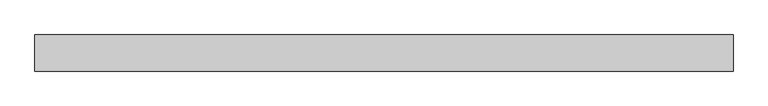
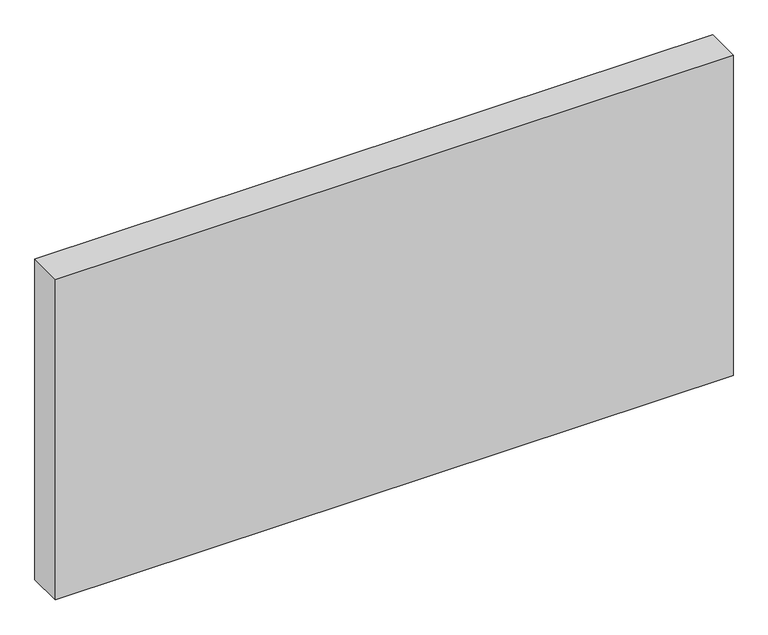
"""IFC4 building model written with IfcOpenShell, lengths in millimetres: plate geometry, Системная панель : Алюкобонд красный."""

import ifcopenshell
import ifcopenshell.guid

model = None  # the IFC model being written
_history = None  # IfcOwnerHistory: only IFC2X3 demands one
_inside = {}  # id of a spatial element -> (the spatial element, [elements in it])
_under = {}  # id of a project, library or spatial element -> (it, [spatial elements below it])
_declared = {}  # id of a project -> (the project, [libraries it declares])
_typed = {}  # id of a type object -> (the type object, [elements of that type])
_made_of = {}  # id of a material, layer set ... -> (it, [elements and type objects made of it])


def new_model(schema):
    """Start an empty IFC model of exactly this schema.

    Asked for "IFC4X3", IfcOpenShell would pick the latest addendum, in which some entities
    have other attributes; the version numbers below select the first issue.
    IFC2X3 requires an IfcOwnerHistory on every rooted entity: one is made here for all.
    """
    global model, _history
    if schema == "IFC4X3":
        model = ifcopenshell.file(schema_version=(4, 3, 0, 0))
    else:
        model = ifcopenshell.file(schema=schema)
    _inside.clear()
    _under.clear()
    _declared.clear()
    _typed.clear()
    _made_of.clear()
    _history = None
    if model.schema == "IFC2X3":
        org = make("IfcOrganization", Name="unknown")
        user = make(
            "IfcPersonAndOrganization",
            ThePerson=make("IfcPerson", FamilyName="unknown"),
            TheOrganization=org,
        )
        app = make(
            "IfcApplication",
            ApplicationDeveloper=org,
            Version="unknown",
            ApplicationFullName="unknown",
            ApplicationIdentifier="unknown",
        )
        _history = make(
            "IfcOwnerHistory",
            OwningUser=user,
            OwningApplication=app,
            ChangeAction="ADDED",
            CreationDate=0,
        )
    return model


def make(cls, **values):
    """One entity of the class cls with the attributes given. An attribute that is None is left unset."""
    return model.create_entity(
        cls, **{name: value for name, value in values.items() if value is not None}
    )


def rooted(cls, **values):
    """An entity with a GlobalId (a new one), such as an element, a storey or a relation."""
    return make(cls, GlobalId=ifcopenshell.guid.new(), OwnerHistory=_history, **values)


def si_unit(unit_type, name, prefix=None):
    """IfcSIUnit, for example si_unit("LENGTHUNIT", "METRE", prefix="MILLI")."""
    return make("IfcSIUnit", UnitType=unit_type, Prefix=prefix, Name=name)


def assignment(units):
    """IfcUnitAssignment: the units of a project."""
    return None if units is None else make("IfcUnitAssignment", Units=units)


def point(xyz):
    """IfcCartesianPoint."""
    return None if xyz is None else make("IfcCartesianPoint", Coordinates=xyz)


def direction(xyz):
    """IfcDirection."""
    return None if xyz is None else make("IfcDirection", DirectionRatios=xyz)


def frame(location, z_axis=None, x_axis=None):
    """IfcAxis2Placement3D, a coordinate frame: its origin and axes. An axis left out is left unset."""
    return make(
        "IfcAxis2Placement3D",
        Location=point(location),
        Axis=direction(z_axis),
        RefDirection=direction(x_axis),
    )


def origin():
    """The frame at (0, 0, 0) with its axes left unset."""
    return frame((0.0, 0.0, 0.0))


def origin_with_axes():
    """The frame at (0, 0, 0) with the z axis (0, 0, 1) and the x axis (1, 0, 0) written out."""
    return frame((0.0, 0.0, 0.0), z_axis=(0.0, 0.0, 1.0), x_axis=(1.0, 0.0, 0.0))


def place(relative_to, where):
    """IfcLocalPlacement: puts the frame where relative to a parent placement (None: the world)."""
    return make(
        "IfcLocalPlacement", PlacementRelTo=relative_to, RelativePlacement=where
    )


def context(
    kind, dimensions, precision=None, world=None, true_north=None, identifier=None
):
    """IfcGeometricRepresentationContext, for example the 3D "Model" context."""
    return make(
        "IfcGeometricRepresentationContext",
        ContextIdentifier=identifier,
        ContextType=kind,
        CoordinateSpaceDimension=dimensions,
        Precision=precision,
        WorldCoordinateSystem=world,
        TrueNorth=true_north,
    )


def project(units=None, contexts=None):
    """IfcProject with its units and contexts."""
    return rooted(
        "IfcProject",
        Name="project",
        RepresentationContexts=contexts,
        UnitsInContext=assignment(units),
    )


def spatial(cls, under=None, at=None, **own):
    """A site, building, storey or space (cls), placed at a placement, below another one or the project."""
    s = rooted(cls, ObjectPlacement=at, **own)
    if under is not None:
        _under.setdefault(under.id(), (under, []))[1].append(s)
    return s


def polyline(points):
    """IfcPolyline through the points."""
    return make("IfcPolyline", Points=[point(p) for p in points])


def outline(outer, holes=None, kind="AREA"):
    """IfcArbitraryClosedProfileDef: a profile drawn as a closed curve; with holes, ...WithVoids."""
    if holes is None:
        return make("IfcArbitraryClosedProfileDef", ProfileType=kind, OuterCurve=outer)
    return make(
        "IfcArbitraryProfileDefWithVoids",
        ProfileType=kind,
        OuterCurve=outer,
        InnerCurves=holes,
    )


def extrude(swept, where, along, depth):
    """IfcExtrudedAreaSolid: the profile swept, set in the frame where, extruded along a direction by depth."""
    return make(
        "IfcExtrudedAreaSolid",
        SweptArea=swept,
        Position=where,
        ExtrudedDirection=direction(along),
        Depth=depth,
    )


def shape(context_of_items, identifier, shape_type, items):
    """IfcShapeRepresentation: the items that make up one representation, for example the "Body"."""
    return make(
        "IfcShapeRepresentation",
        ContextOfItems=context_of_items,
        RepresentationIdentifier=identifier,
        RepresentationType=shape_type,
        Items=items,
    )


def source(mapping_origin, context_of_items, identifier, shape_type, items):
    """IfcRepresentationMap: a shape defined once, which mapped items show again and again."""
    return make(
        "IfcRepresentationMap",
        MappingOrigin=mapping_origin,
        MappedRepresentation=shape(context_of_items, identifier, shape_type, items),
    )


def transform(
    local_origin,
    x_axis=None,
    y_axis=None,
    z_axis=None,
    scale=None,
    scale2=None,
    scale3=None,
    uniform=True,
):
    """IfcCartesianTransformationOperator3D, or its non-uniform kind. x_axis, y_axis, z_axis: its Axis1, 2, 3."""
    if uniform:
        return make(
            "IfcCartesianTransformationOperator3D",
            Axis1=direction(x_axis),
            Axis2=direction(y_axis),
            LocalOrigin=point(local_origin),
            Scale=scale,
            Axis3=direction(z_axis),
        )
    return make(
        "IfcCartesianTransformationOperator3DnonUniform",
        Axis1=direction(x_axis),
        Axis2=direction(y_axis),
        LocalOrigin=point(local_origin),
        Scale=scale,
        Axis3=direction(z_axis),
        Scale2=scale2,
        Scale3=scale3,
    )


def mapped(mapping_source, mapping_target):
    """IfcMappedItem: shows the shape of a source again, moved by a transform."""
    return make(
        "IfcMappedItem", MappingSource=mapping_source, MappingTarget=mapping_target
    )


def made_of(thing, what):
    """Note that an element or type object is made of a material, layer set ...; save() writes the relation."""
    if what is not None:
        _made_of.setdefault(what.id(), (what, []))[1].append(thing)
    return thing


def element(
    cls,
    number,
    at=None,
    inside=None,
    cuts=None,
    type_object=None,
    material=None,
    context=None,
    identifier="Body",
    shape_type=None,
    held_by="IfcProductDefinitionShape",
    body=None,
    shapes=None,
    **own,
):
    """One element of the class cls, such as IfcWall. Its Tag is "e" and its number.

    at: its placement. inside: the storey or other place that contains it. cuts: it is an
    opening in that element (IfcRelVoidsElement). A single representation is given by context,
    identifier, shape_type and body (its items); several are given by shapes. held_by: the class
    of the entity that holds the representations. save() writes the other relations.
    """
    e = rooted(cls, Tag="e%d" % number, ObjectPlacement=at, **own)
    if body is not None:
        shapes = [shape(context, identifier, shape_type, body)]
    if shapes is not None:
        e.Representation = make(held_by, Representations=shapes)
    if inside is not None:
        _inside.setdefault(inside.id(), (inside, []))[1].append(e)
    if cuts is not None:
        rooted(
            "IfcRelVoidsElement", RelatingBuildingElement=cuts, RelatedOpeningElement=e
        )
    if type_object is not None:
        _typed.setdefault(type_object.id(), (type_object, []))[1].append(e)
    return made_of(e, material)


def aggregate(whole, parts):
    """IfcRelAggregates: a whole, such as a stair, and the parts it consists of."""
    return rooted("IfcRelAggregates", RelatingObject=whole, RelatedObjects=parts)


def save(model, path):
    """Write the relations noted so far, then the file.

    IfcRelAggregates (storeys below a building ...), IfcRelContainedInSpatialStructure (elements
    in a storey), IfcRelDefinesByType, IfcRelAssociatesMaterial and IfcRelDeclares: one each for
    every whole, place, type object, material and project.
    """
    for whole, parts in _under.values():
        aggregate(whole, parts)
    for where, things in _inside.values():
        rooted(
            "IfcRelContainedInSpatialStructure",
            RelatedElements=things,
            RelatingStructure=where,
        )
    for kind, things in _typed.values():
        rooted("IfcRelDefinesByType", RelatedObjects=things, RelatingType=kind)
    for what, things in _made_of.values():
        rooted("IfcRelAssociatesMaterial", RelatedObjects=things, RelatingMaterial=what)
    for by, libraries in _declared.values():
        rooted("IfcRelDeclares", RelatingContext=by, RelatedDefinitions=libraries)
    model.write(path)


def plate_d42b6c9c(model_context):
    return source(origin(), model_context, "Body", "SweptSolid", [
        extrude(outline(polyline([(580.0, -10.5), (-580.0, -10.5), (-580.0, 49.5), (580.0, 49.5), (580.0, -10.5)])), origin_with_axes(), (0.0, 0.0, 1.0), 580.0),
    ])


if __name__ == "__main__":
    model = new_model("IFC4")
    model_context = context("Model", 3, world=origin())
    ifc_project = project(units=[si_unit("LENGTHUNIT", "METRE", prefix="MILLI")], contexts=[model_context])
    site = spatial("IfcSite", under=ifc_project)
    building = spatial("IfcBuilding", under=site)
    placement = place(None, origin())
    plate_shape = plate_d42b6c9c(model_context)
    element("IfcPlate", 1, ObjectType="Системная панель : Алюкобонд красный", at=placement, inside=building, context=model_context, shape_type="MappedRepresentation", body=[
        mapped(plate_shape, transform((0.0, 0.0, 0.0), x_axis=(1.0, 0.0, 0.0), y_axis=(0.0, 1.0, 0.0), z_axis=(0.0, 0.0, 1.0))),
    ])
    save(model, "model.ifc")
